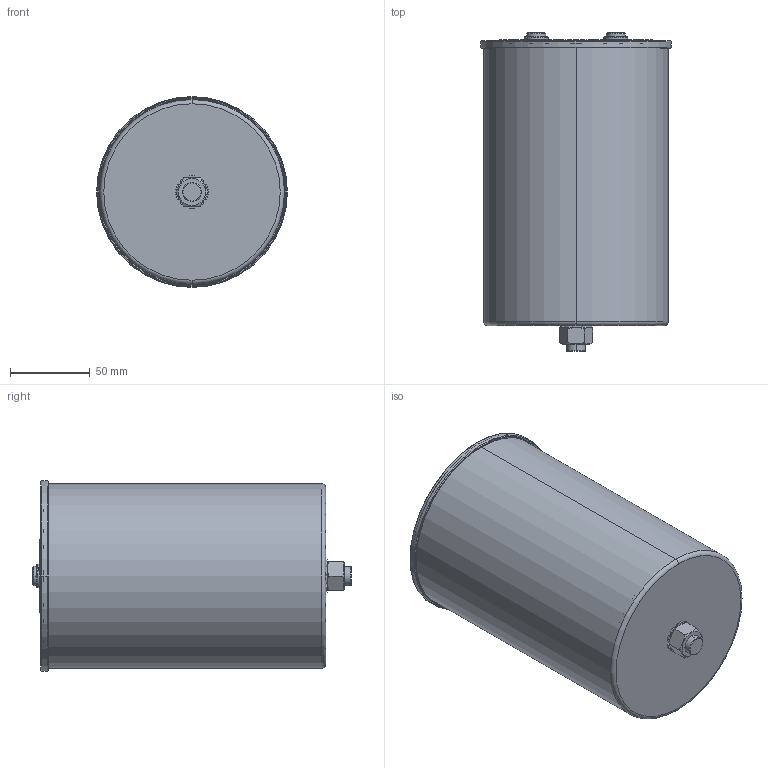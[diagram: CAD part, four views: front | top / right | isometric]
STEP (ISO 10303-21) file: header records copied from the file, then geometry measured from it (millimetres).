
FILE_DESCRIPTION (( 'STEP AP203' ), '1' );
FILE_NAME ('B25680Bx_116x179_184.STEP', '2021-09-13T06:53:19', ( '' ), ( '' ), 'SwSTEP 2.0', 'SolidWorks 2017', '' );
FILE_SCHEMA (( 'CONFIG_CONTROL_DESIGN' ));
Length unit declared in the file: millimetre
Products named in the file (1): B25680Bx_116x179_184
Bounding box: 120 x 200 x 120 mm (x, y, z)
Volume: 131926 mm3; surface area: 201065.9 mm2
Topology: 1 solids, 7 shells, 385 faces, 908 edges, 572 vertices
Faces by surface type: plane 153, cylinder 142, torus 42, cone 36, bspline 12
Entity records: 12405 total; most frequent: CARTESIAN_POINT 3162, DIRECTION 2092, ORIENTED_EDGE 1808, EDGE_CURVE 904, AXIS2_PLACEMENT_3D 850, VERTEX_POINT 572, CIRCLE 476, EDGE_LOOP 436
